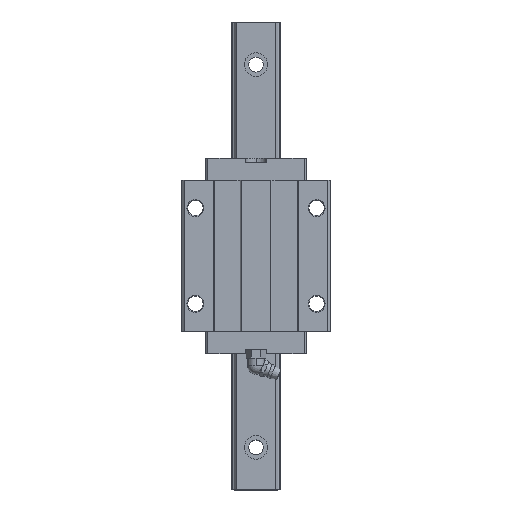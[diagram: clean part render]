
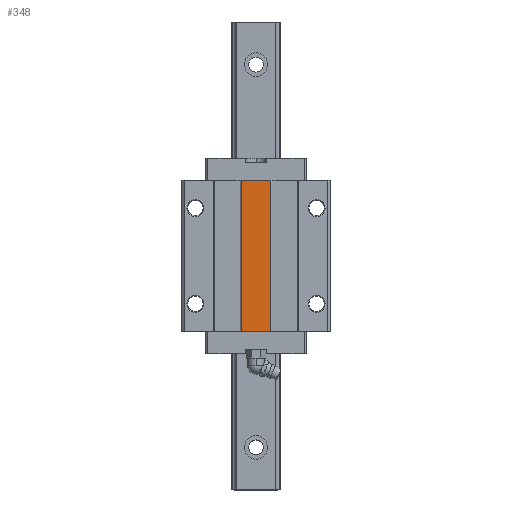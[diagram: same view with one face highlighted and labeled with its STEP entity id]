
A CAD part, top view. The second image highlights one B-rep face of the part: STEP entity #348.
In plain terms, the highlighted planar face has unit normal (0, 0, 1).
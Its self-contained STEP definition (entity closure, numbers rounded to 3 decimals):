
#348=ADVANCED_FACE('',(#801),#802,.F.);
#801=FACE_OUTER_BOUND('',#1333,.T.);
#802=PLANE('',#1334);
#1333=EDGE_LOOP('',(#3076,#3077,#3078,#3079));
#1334=AXIS2_PLACEMENT_3D('',#3080,#3081,#3082);
#3076=ORIENTED_EDGE('',*,*,#4169,.F.);
#3077=ORIENTED_EDGE('',*,*,#4191,.F.);
#3078=ORIENTED_EDGE('',*,*,#4136,.T.);
#3079=ORIENTED_EDGE('',*,*,#4300,.T.);
#3080=CARTESIAN_POINT('',(7.0,71.0,36.0));
#3081=DIRECTION('',(0.,0.,-1.0));
#3082=DIRECTION('',(0.0,-1.0,0.));
#4136=EDGE_CURVE('',#5404,#5402,#5405,.T.);
#4169=EDGE_CURVE('',#5461,#5463,#5464,.T.);
#4191=EDGE_CURVE('',#5404,#5461,#5496,.T.);
#4300=EDGE_CURVE('',#5402,#5463,#5635,.T.);
#5402=VERTEX_POINT('',#7099);
#5404=VERTEX_POINT('',#7102);
#5405=LINE('',#7103,#7104);
#5461=VERTEX_POINT('',#7188);
#5463=VERTEX_POINT('',#7191);
#5464=LINE('',#7192,#7193);
#5496=LINE('',#7242,#7243);
#5635=LINE('',#7445,#7446);
#7099=CARTESIAN_POINT('',(-7.0,71.0,36.0));
#7102=CARTESIAN_POINT('',(7.0,71.0,36.0));
#7103=CARTESIAN_POINT('',(7.0,71.0,36.0));
#7104=VECTOR('',#8771,1000.0);
#7188=CARTESIAN_POINT('',(7.0,0.,36.0));
#7191=CARTESIAN_POINT('',(-7.0,0.,36.0));
#7192=CARTESIAN_POINT('',(7.0,0.,36.0));
#7193=VECTOR('',#8810,1000.0);
#7242=CARTESIAN_POINT('',(7.0,71.0,36.0));
#7243=VECTOR('',#8840,1000.0);
#7445=CARTESIAN_POINT('',(-7.0,71.0,36.0));
#7446=VECTOR('',#9039,1000.0);
#8771=DIRECTION('',(-1.0,0.,0.));
#8810=DIRECTION('',(-1.0,0.,0.));
#8840=DIRECTION('',(0.,-1.0,0.));
#9039=DIRECTION('',(0.,-1.0,0.));
